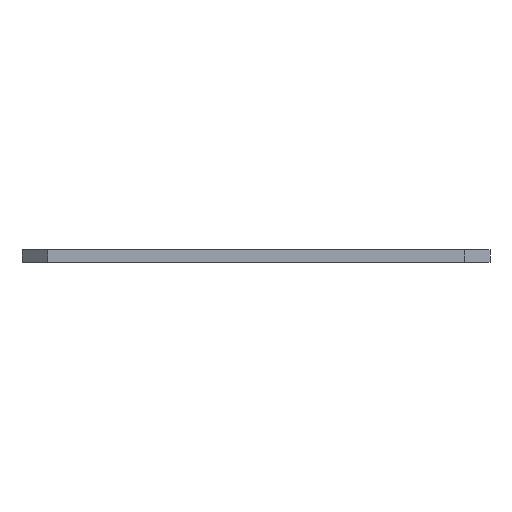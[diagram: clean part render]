
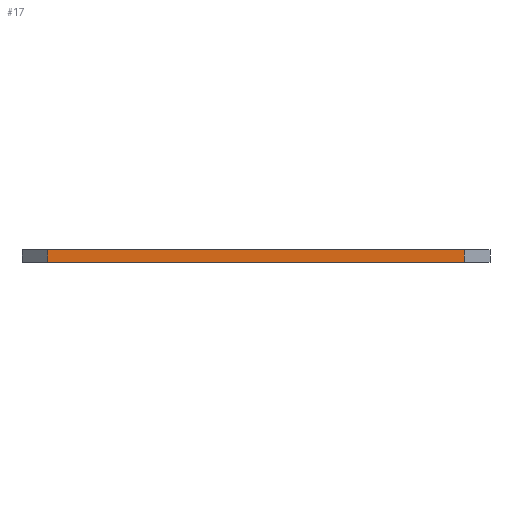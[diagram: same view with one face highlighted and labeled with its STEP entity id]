
A CAD part, front view. The second image highlights one B-rep face of the part: STEP entity #17.
In plain terms, the highlighted planar face has unit normal (0, -1, 0).
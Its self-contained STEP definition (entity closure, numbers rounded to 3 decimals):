
#17 = ADVANCED_FACE('',(#18),#52,.F.);
#18 = FACE_BOUND('',#19,.F.);
#19 = EDGE_LOOP('',(#20,#30,#38,#46));
#20 = ORIENTED_EDGE('',*,*,#21,.T.);
#21 = EDGE_CURVE('',#22,#24,#26,.T.);
#22 = VERTEX_POINT('',#23);
#23 = CARTESIAN_POINT('',(-49.,-55.,0.));
#24 = VERTEX_POINT('',#25);
#25 = CARTESIAN_POINT('',(-49.,-55.,3.));
#26 = LINE('',#27,#28);
#27 = CARTESIAN_POINT('',(-49.,-55.,0.));
#28 = VECTOR('',#29,1.);
#29 = DIRECTION('',(0.,0.,1.));
#30 = ORIENTED_EDGE('',*,*,#31,.T.);
#31 = EDGE_CURVE('',#24,#32,#34,.T.);
#32 = VERTEX_POINT('',#33);
#33 = CARTESIAN_POINT('',(49.,-55.,3.));
#34 = LINE('',#35,#36);
#35 = CARTESIAN_POINT('',(-49.,-55.,3.));
#36 = VECTOR('',#37,1.);
#37 = DIRECTION('',(1.,0.,0.));
#38 = ORIENTED_EDGE('',*,*,#39,.F.);
#39 = EDGE_CURVE('',#40,#32,#42,.T.);
#40 = VERTEX_POINT('',#41);
#41 = CARTESIAN_POINT('',(49.,-55.,0.));
#42 = LINE('',#43,#44);
#43 = CARTESIAN_POINT('',(49.,-55.,0.));
#44 = VECTOR('',#45,1.);
#45 = DIRECTION('',(0.,0.,1.));
#46 = ORIENTED_EDGE('',*,*,#47,.F.);
#47 = EDGE_CURVE('',#22,#40,#48,.T.);
#48 = LINE('',#49,#50);
#49 = CARTESIAN_POINT('',(-49.,-55.,0.));
#50 = VECTOR('',#51,1.);
#51 = DIRECTION('',(1.,0.,0.));
#52 = PLANE('',#53);
#53 = AXIS2_PLACEMENT_3D('',#54,#55,#56);
#54 = CARTESIAN_POINT('',(-49.,-55.,0.));
#55 = DIRECTION('',(0.,1.,0.));
#56 = DIRECTION('',(1.,0.,0.));
